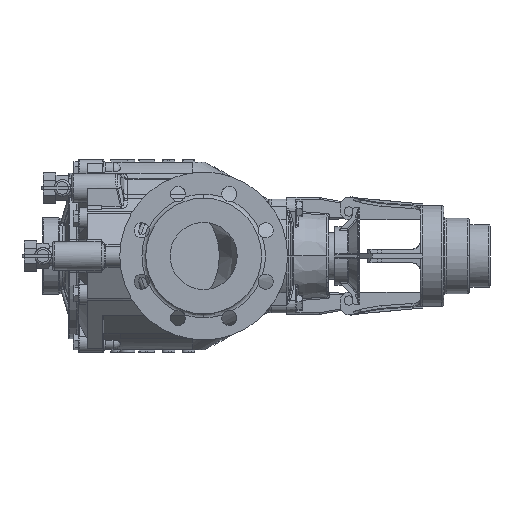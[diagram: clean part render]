
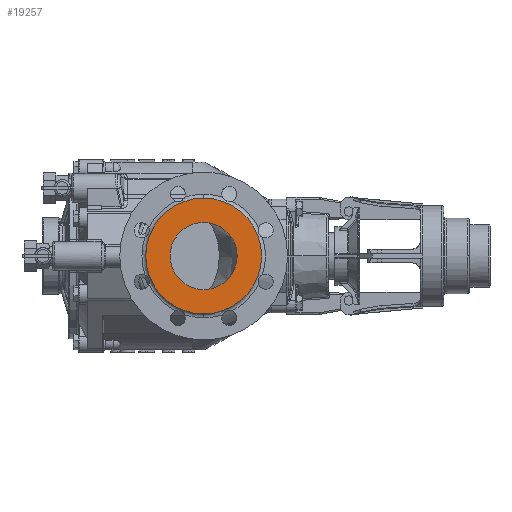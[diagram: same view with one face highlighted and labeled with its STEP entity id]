
A CAD part, left-side view. The second image highlights one B-rep face of the part: STEP entity #19257.
In plain terms, the highlighted planar face has unit normal (-1, 0, 0).
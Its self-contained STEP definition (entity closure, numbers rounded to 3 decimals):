
#10945 = EDGE_LOOP ( 'NONE', ( #19295, #19296 ) ) ;
#19102 = EDGE_CURVE ( 'NONE', #81040, #81270, #62258, .T. ) ;
#19257 = ADVANCED_FACE ( 'NONE', ( #62772, #62767 ), #62775, .F. ) ;
#19258 = EDGE_LOOP ( 'NONE', ( #19260, #19262 ) ) ;
#19260 = ORIENTED_EDGE ( 'NONE', *, *, #79230, .T. ) ;
#19262 = ORIENTED_EDGE ( 'NONE', *, *, #19263, .T. ) ;
#19263 = EDGE_CURVE ( 'NONE', #79220, #79222, #62745, .T. ) ;
#19295 = ORIENTED_EDGE ( 'NONE', *, *, #19102, .T. ) ;
#19296 = ORIENTED_EDGE ( 'NONE', *, *, #81265, .T. ) ;
#62252 = DIRECTION ( 'NONE',  ( 0., 0., 1. ) ) ;
#62253 = DIRECTION ( 'NONE',  ( -1., 0., 0. ) ) ;
#62254 = CARTESIAN_POINT ( 'NONE',  ( -185., -129., 0. ) ) ;
#62255 = AXIS2_PLACEMENT_3D ( 'NONE', #62254, #62253, #62252 ) ;
#62258 = CIRCLE ( 'NONE', #62255, 69. ) ;
#62732 = DIRECTION ( 'NONE',  ( 0., 0., -1. ) ) ;
#62734 = DIRECTION ( 'NONE',  ( 1., 0., 0. ) ) ;
#62736 = CARTESIAN_POINT ( 'NONE',  ( -185., -129., 0. ) ) ;
#62737 = AXIS2_PLACEMENT_3D ( 'NONE', #62736, #62734, #62732 ) ;
#62742 = DIRECTION ( 'NONE',  ( 0., 0., -1. ) ) ;
#62743 = DIRECTION ( 'NONE',  ( 1., 0., 0. ) ) ;
#62744 = CARTESIAN_POINT ( 'NONE',  ( -185., -129., 0. ) ) ;
#62745 = CIRCLE ( 'NONE', #62737, 40. ) ;
#62761 = AXIS2_PLACEMENT_3D ( 'NONE', #62744, #62743, #62742 ) ;
#62767 = FACE_OUTER_BOUND ( 'NONE', #10945, .T. ) ;
#62772 = FACE_BOUND ( 'NONE', #19258, .T. ) ;
#62775 = PLANE ( 'NONE',  #62761 ) ;
#79220 = VERTEX_POINT ( 'NONE', #95980 ) ;
#79222 = VERTEX_POINT ( 'NONE', #95983 ) ;
#79230 = EDGE_CURVE ( 'NONE', #79222, #79220, #96018, .T. ) ;
#81040 = VERTEX_POINT ( 'NONE', #112234 ) ;
#81265 = EDGE_CURVE ( 'NONE', #81270, #81040, #112727, .T. ) ;
#81270 = VERTEX_POINT ( 'NONE', #112706 ) ;
#95980 = CARTESIAN_POINT ( 'NONE',  ( -185., -136.447, -39.301 ) ) ;
#95983 = CARTESIAN_POINT ( 'NONE',  ( -185., -121.553, 39.301 ) ) ;
#96014 = DIRECTION ( 'NONE',  ( 0., 0., -1. ) ) ;
#96015 = DIRECTION ( 'NONE',  ( 1., 0., 0. ) ) ;
#96017 = AXIS2_PLACEMENT_3D ( 'NONE', #96027, #96015, #96014 ) ;
#96018 = CIRCLE ( 'NONE', #96017, 40. ) ;
#96027 = CARTESIAN_POINT ( 'NONE',  ( -185., -129., 0. ) ) ;
#112234 = CARTESIAN_POINT ( 'NONE',  ( -185., -129., 69. ) ) ;
#112706 = CARTESIAN_POINT ( 'NONE',  ( -185., -129., -69. ) ) ;
#112721 = DIRECTION ( 'NONE',  ( 0., 0., 1. ) ) ;
#112722 = DIRECTION ( 'NONE',  ( -1., 0., 0. ) ) ;
#112724 = CARTESIAN_POINT ( 'NONE',  ( -185., -129., 0. ) ) ;
#112725 = AXIS2_PLACEMENT_3D ( 'NONE', #112724, #112722, #112721 ) ;
#112727 = CIRCLE ( 'NONE', #112725, 69. ) ;
